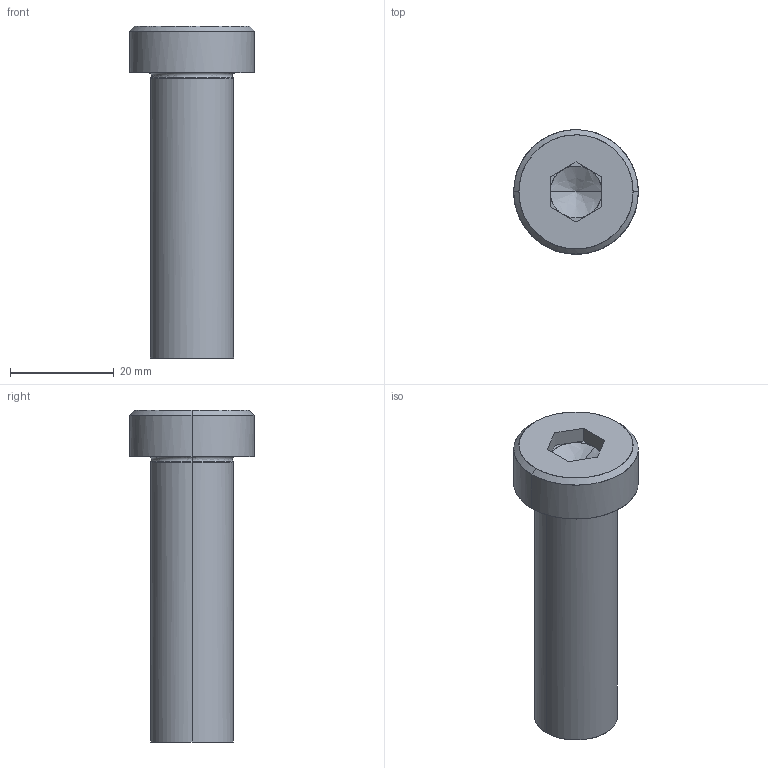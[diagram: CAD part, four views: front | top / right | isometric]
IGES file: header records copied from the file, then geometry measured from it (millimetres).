
Global section: file name: E:\UnigraphicsGraphicData\MISUMI_PRESS-PARTS\IGES\3d_sbtcn16-55_05139_r00.igs; native system: NX V5.0; preprocessor: UGS NX IGES V5.0; author: MISUMI; date: 20110105.162456; units: millimetre
Bounding box: 24 x 24 x 64 mm (x, y, z)
Surface area: 5111.1 mm2 (no closed solid volume)
Topology: 0 solids, 0 shells, 34 faces, 186 edges, 182 vertices
Faces by surface type: bspline 34
